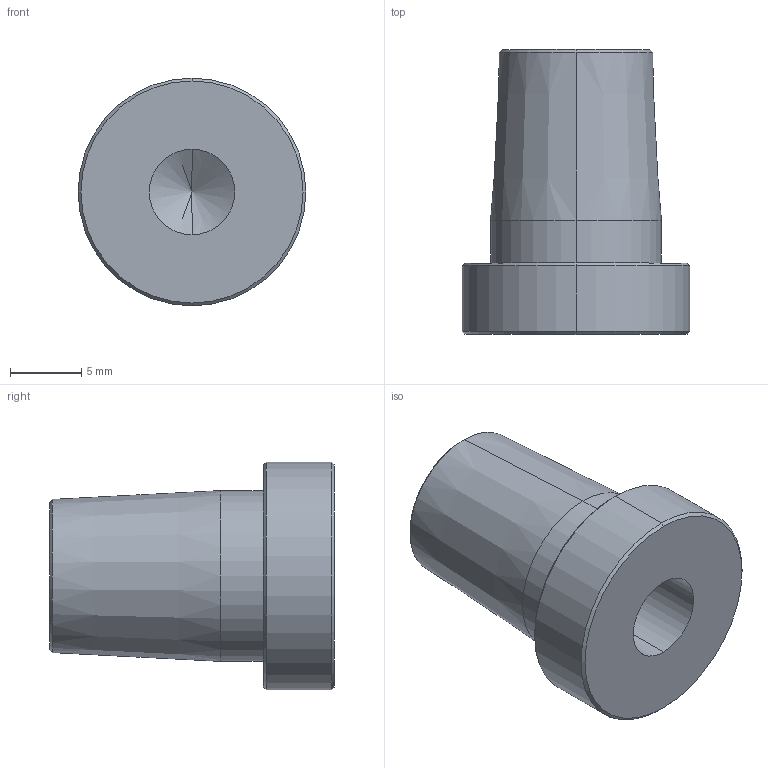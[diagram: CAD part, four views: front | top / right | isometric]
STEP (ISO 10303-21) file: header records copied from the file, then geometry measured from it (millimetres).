
FILE_DESCRIPTION (( 'STEP AP203' ), '1' );
FILE_NAME ('上部電極_SW-PN-UG6.STEP', '2022-04-04T04:58:26', ( '' ), ( '' ), 'SwSTEP 2.0', 'SolidWorks 2015', '' );
FILE_SCHEMA (( 'CONFIG_CONTROL_DESIGN' ));
Length unit declared in the file: millimetre
Products named in the file (2): 上部電極_SW-PN-UG6
Bounding box: 16 x 20 x 16 mm (x, y, z)
Volume: 1944.9 mm3; surface area: 1494.6 mm2
Topology: 1 solids, 1 shells, 25 faces, 52 edges, 28 vertices
Faces by surface type: cone 14, cylinder 8, plane 3
Entity records: 787 total; most frequent: DIRECTION 128, CARTESIAN_POINT 103, ORIENTED_EDGE 96, AXIS2_PLACEMENT_3D 53, EDGE_CURVE 48, VERTEX_POINT 28, EDGE_LOOP 28, CIRCLE 26
